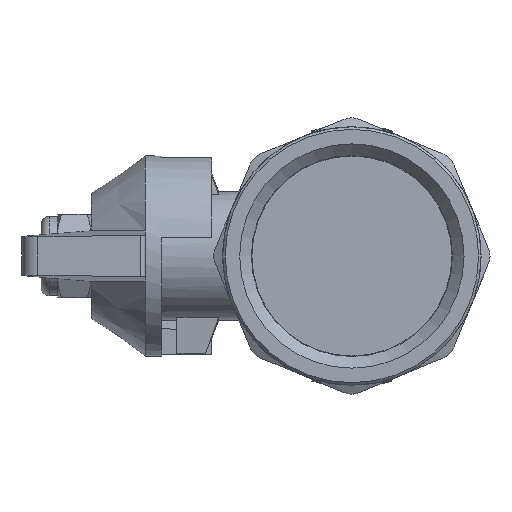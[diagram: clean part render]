
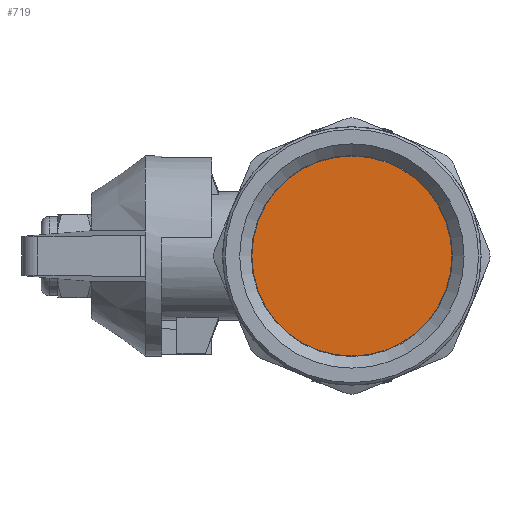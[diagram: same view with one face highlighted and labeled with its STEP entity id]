
A CAD part, left-side view. The second image highlights one B-rep face of the part: STEP entity #719.
In plain terms, the highlighted planar face has unit normal (-1, 0, 0).
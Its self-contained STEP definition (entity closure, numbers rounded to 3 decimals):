
#719=ADVANCED_FACE('',(#5247),#5249,.T.);
#5247=FACE_BOUND('',#5248,.T.);
#5248=EDGE_LOOP('',(#9390));
#5249=PLANE('',#5250);
#5250=AXIS2_PLACEMENT_3D('',#5251,#5252,#5253);
#5251=CARTESIAN_POINT('',(-31.75,0.,0.));
#5252=DIRECTION('',(-1.,0.,0.));
#5253=DIRECTION('',(0.,0.,1.));
#9390=ORIENTED_EDGE('',*,*,#11254,.T.);
#11254=EDGE_CURVE('',#14199,#14199,#14200,.T.);
#14199=VERTEX_POINT('',#29620);
#14200=CIRCLE('',#29621,12.);
#29620=CARTESIAN_POINT('',(-31.75,0.,12.));
#29621=AXIS2_PLACEMENT_3D('',#29622,#29623,#29624);
#29622=CARTESIAN_POINT('',(-31.75,0.,0.));
#29623=DIRECTION('',(-1.,0.,0.));
#29624=DIRECTION('',(0.,0.,1.));
